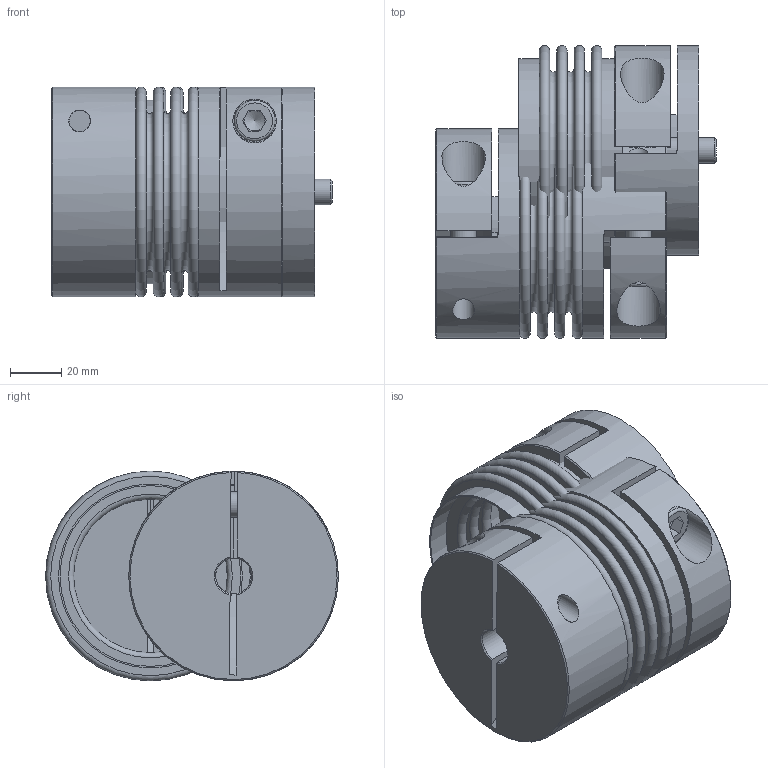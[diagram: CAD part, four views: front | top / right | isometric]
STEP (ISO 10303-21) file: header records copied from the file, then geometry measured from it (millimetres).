
FILE_DESCRIPTION( ( 'Unknown' ), '1' );
FILE_NAME( 'C:/Dokumente und Einstellungen/Sven/Desktop/cad - homepage/KB4/KB4-80-91.stp', 'Unknown', ( 'Unknown' ), ( 'Unknown' ), 'XStep 1.0', 'Unknown', ' ' );
FILE_SCHEMA( ( 'automotive_design' ) );
Length unit declared in the file: millimetre
Products named in the file (4): Assem1; KN80-150_Standard_3; BK80-150_Standard_0; Socket Head Cap Screw_DIN_DIN 912 M10 x 30 --- 30N_3
Bounding box: 109.85 x 114.48 x 82 mm (x, y, z)
Volume: 498169.9 mm3; surface area: 184518 mm2
Topology: 8 solids, 8 shells, 204 faces, 435 edges, 285 vertices
Faces by surface type: plane 117, cylinder 38, torus 34, cone 15
Full cylindrical faces by diameter (mm): 8.5 x3, 10 x9, 14 x3, 16 x3, 17 x3, 70.7 x4, 71.9 x4, 82 x3
Entity records: 2446 total; most frequent: CARTESIAN_POINT 488, DIRECTION 361, ORIENTED_EDGE 250, AXIS2_PLACEMENT_3D 159, EDGE_LOOP 136, EDGE_CURVE 125, FACE_OUTER_BOUND 108, VERTEX_POINT 100
